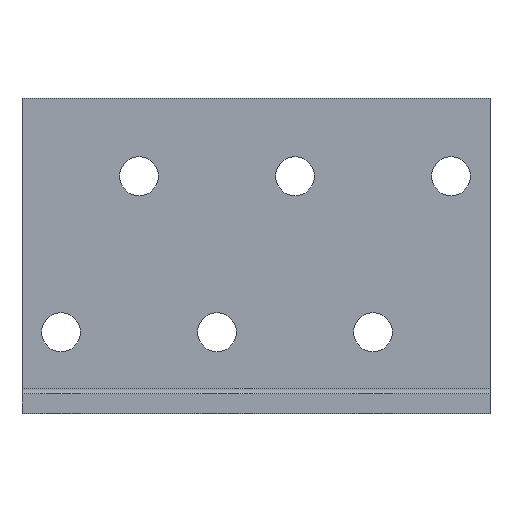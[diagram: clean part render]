
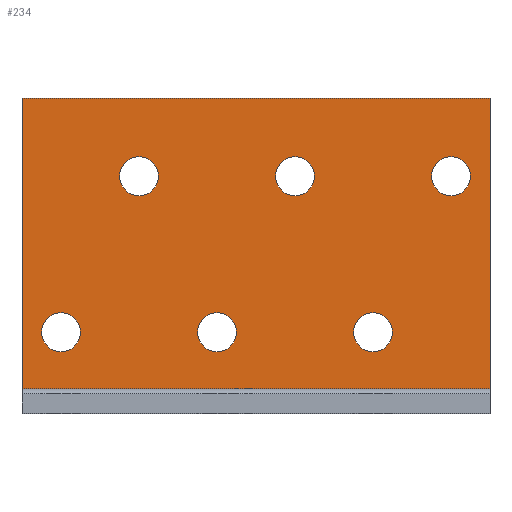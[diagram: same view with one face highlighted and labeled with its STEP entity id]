
A CAD part, top view. The second image highlights one B-rep face of the part: STEP entity #234.
In plain terms, the highlighted planar face has unit normal (0, 0, 1).
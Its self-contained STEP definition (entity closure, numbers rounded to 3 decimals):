
#4 = DIRECTION ( 'NONE',  ( 0., 0., 1. ) ) ;
#11 = CARTESIAN_POINT ( 'NONE',  ( 15., 27.962, -37.962 ) ) ;
#13 = CIRCLE ( 'NONE', #1063, 2.5 ) ;
#14 = EDGE_CURVE ( 'NONE', #635, #1287, #470, .T. ) ;
#28 = CARTESIAN_POINT ( 'NONE',  ( 25., 10.462, -37.962 ) ) ;
#38 = CARTESIAN_POINT ( 'NONE',  ( 15., 25.462, -37.962 ) ) ;
#43 = VERTEX_POINT ( 'NONE', #472 ) ;
#61 = DIRECTION ( 'NONE',  ( 0., -1., 0. ) ) ;
#68 = AXIS2_PLACEMENT_3D ( 'NONE', #251, #410, #61 ) ;
#70 = CARTESIAN_POINT ( 'NONE',  ( 60., 37.962, -37.962 ) ) ;
#92 = CIRCLE ( 'NONE', #887, 2.5 ) ;
#97 = CARTESIAN_POINT ( 'NONE',  ( 15., 30.462, -37.962 ) ) ;
#113 = ORIENTED_EDGE ( 'NONE', *, *, #316, .F. ) ;
#116 = CIRCLE ( 'NONE', #982, 2.5 ) ;
#123 = DIRECTION ( 'NONE',  ( 0., 0., 1. ) ) ;
#148 = CARTESIAN_POINT ( 'NONE',  ( 0., 0.737, -37.962 ) ) ;
#154 = CIRCLE ( 'NONE', #68, 2.5 ) ;
#155 = EDGE_LOOP ( 'NONE', ( #335, #113 ) ) ;
#167 = EDGE_CURVE ( 'NONE', #205, #726, #430, .T. ) ;
#168 = CIRCLE ( 'NONE', #755, 2.5 ) ;
#183 = EDGE_CURVE ( 'NONE', #328, #43, #1323, .T. ) ;
#187 = FACE_OUTER_BOUND ( 'NONE', #1184, .T. ) ;
#200 = CARTESIAN_POINT ( 'NONE',  ( 55., 30.462, -37.962 ) ) ;
#205 = VERTEX_POINT ( 'NONE', #841 ) ;
#209 = AXIS2_PLACEMENT_3D ( 'NONE', #495, #4, #1223 ) ;
#233 = DIRECTION ( 'NONE',  ( 0., -1., 0. ) ) ;
#234 = ADVANCED_FACE ( 'NONE', ( #457, #1266, #868, #1229, #691, #273, #187 ), #890, .F. ) ;
#239 = DIRECTION ( 'NONE',  ( 0., -1., 0. ) ) ;
#244 = VERTEX_POINT ( 'NONE', #506 ) ;
#251 = CARTESIAN_POINT ( 'NONE',  ( 45., 7.962, -37.962 ) ) ;
#273 = FACE_BOUND ( 'NONE', #311, .T. ) ;
#276 = AXIS2_PLACEMENT_3D ( 'NONE', #386, #474, #1258 ) ;
#283 = EDGE_CURVE ( 'NONE', #286, #558, #397, .T. ) ;
#286 = VERTEX_POINT ( 'NONE', #38 ) ;
#290 = DIRECTION ( 'NONE',  ( 0., 0., 1. ) ) ;
#292 = EDGE_CURVE ( 'NONE', #685, #244, #1159, .T. ) ;
#301 = DIRECTION ( 'NONE',  ( 0., 0., 1. ) ) ;
#311 = EDGE_LOOP ( 'NONE', ( #625, #427 ) ) ;
#316 = EDGE_CURVE ( 'NONE', #1238, #336, #116, .T. ) ;
#328 = VERTEX_POINT ( 'NONE', #200 ) ;
#335 = ORIENTED_EDGE ( 'NONE', *, *, #1144, .F. ) ;
#336 = VERTEX_POINT ( 'NONE', #1296 ) ;
#348 = EDGE_LOOP ( 'NONE', ( #1163, #811 ) ) ;
#350 = AXIS2_PLACEMENT_3D ( 'NONE', #730, #687, #773 ) ;
#358 = VECTOR ( 'NONE', #233, 1000. ) ;
#362 = EDGE_CURVE ( 'NONE', #653, #405, #1199, .T. ) ;
#365 = DIRECTION ( 'NONE',  ( -1., 0., 0. ) ) ;
#369 = DIRECTION ( 'NONE',  ( 0., 1., 0. ) ) ;
#377 = AXIS2_PLACEMENT_3D ( 'NONE', #882, #290, #1038 ) ;
#386 = CARTESIAN_POINT ( 'NONE',  ( 25., 7.962, -37.962 ) ) ;
#397 = CIRCLE ( 'NONE', #438, 2.5 ) ;
#398 = EDGE_CURVE ( 'NONE', #679, #635, #884, .T. ) ;
#405 = VERTEX_POINT ( 'NONE', #28 ) ;
#408 = VERTEX_POINT ( 'NONE', #631 ) ;
#410 = DIRECTION ( 'NONE',  ( 0., 0., 1. ) ) ;
#427 = ORIENTED_EDGE ( 'NONE', *, *, #167, .F. ) ;
#430 = CIRCLE ( 'NONE', #456, 2.5 ) ;
#432 = CIRCLE ( 'NONE', #209, 2.5 ) ;
#438 = AXIS2_PLACEMENT_3D ( 'NONE', #996, #942, #1028 ) ;
#450 = VECTOR ( 'NONE', #365, 1000. ) ;
#453 = DIRECTION ( 'NONE',  ( 0., 0., 1. ) ) ;
#455 = DIRECTION ( 'NONE',  ( 0., 1., 0. ) ) ;
#456 = AXIS2_PLACEMENT_3D ( 'NONE', #646, #895, #672 ) ;
#457 = FACE_BOUND ( 'NONE', #348, .T. ) ;
#468 = ORIENTED_EDGE ( 'NONE', *, *, #986, .T. ) ;
#470 = LINE ( 'NONE', #1113, #450 ) ;
#472 = CARTESIAN_POINT ( 'NONE',  ( 55., 25.462, -37.962 ) ) ;
#474 = DIRECTION ( 'NONE',  ( 0., 0., 1. ) ) ;
#495 = CARTESIAN_POINT ( 'NONE',  ( 25., 7.962, -37.962 ) ) ;
#506 = CARTESIAN_POINT ( 'NONE',  ( 35., 30.462, -37.962 ) ) ;
#525 = AXIS2_PLACEMENT_3D ( 'NONE', #1046, #1207, #455 ) ;
#558 = VERTEX_POINT ( 'NONE', #97 ) ;
#561 = AXIS2_PLACEMENT_3D ( 'NONE', #1150, #123, #1048 ) ;
#567 = DIRECTION ( 'NONE',  ( 0., -1., 0. ) ) ;
#572 = VECTOR ( 'NONE', #1151, 1000. ) ;
#574 = CARTESIAN_POINT ( 'NONE',  ( 55., 27.962, -37.962 ) ) ;
#576 = CARTESIAN_POINT ( 'NONE',  ( 0., 37.962, -37.962 ) ) ;
#605 = CARTESIAN_POINT ( 'NONE',  ( 35., 27.962, -37.962 ) ) ;
#611 = LINE ( 'NONE', #148, #572 ) ;
#625 = ORIENTED_EDGE ( 'NONE', *, *, #652, .F. ) ;
#629 = EDGE_CURVE ( 'NONE', #405, #653, #432, .T. ) ;
#631 = CARTESIAN_POINT ( 'NONE',  ( 0., 0.737, -37.962 ) ) ;
#632 = CARTESIAN_POINT ( 'NONE',  ( 25., 5.462, -37.962 ) ) ;
#635 = VERTEX_POINT ( 'NONE', #70 ) ;
#646 = CARTESIAN_POINT ( 'NONE',  ( 5., 7.962, -37.962 ) ) ;
#652 = EDGE_CURVE ( 'NONE', #726, #205, #831, .T. ) ;
#653 = VERTEX_POINT ( 'NONE', #632 ) ;
#666 = LINE ( 'NONE', #822, #358 ) ;
#672 = DIRECTION ( 'NONE',  ( 0., -1., 0. ) ) ;
#677 = DIRECTION ( 'NONE',  ( 0., 0., 1. ) ) ;
#679 = VERTEX_POINT ( 'NONE', #770 ) ;
#683 = ORIENTED_EDGE ( 'NONE', *, *, #1239, .F. ) ;
#685 = VERTEX_POINT ( 'NONE', #909 ) ;
#687 = DIRECTION ( 'NONE',  ( 0., 0., 1. ) ) ;
#691 = FACE_BOUND ( 'NONE', #1255, .T. ) ;
#719 = ORIENTED_EDGE ( 'NONE', *, *, #183, .F. ) ;
#723 = ORIENTED_EDGE ( 'NONE', *, *, #14, .T. ) ;
#726 = VERTEX_POINT ( 'NONE', #1007 ) ;
#728 = DIRECTION ( 'NONE',  ( 0., -1., 0. ) ) ;
#730 = CARTESIAN_POINT ( 'NONE',  ( 35., 27.962, -37.962 ) ) ;
#755 = AXIS2_PLACEMENT_3D ( 'NONE', #574, #301, #940 ) ;
#768 = EDGE_CURVE ( 'NONE', #244, #685, #92, .T. ) ;
#770 = CARTESIAN_POINT ( 'NONE',  ( 60., 0.737, -37.962 ) ) ;
#773 = DIRECTION ( 'NONE',  ( 0., -1., 0. ) ) ;
#811 = ORIENTED_EDGE ( 'NONE', *, *, #889, .F. ) ;
#812 = DIRECTION ( 'NONE',  ( 0., 0., 1. ) ) ;
#822 = CARTESIAN_POINT ( 'NONE',  ( 0., -38.038, -37.962 ) ) ;
#831 = CIRCLE ( 'NONE', #377, 2.5 ) ;
#841 = CARTESIAN_POINT ( 'NONE',  ( 5., 10.462, -37.962 ) ) ;
#868 = FACE_BOUND ( 'NONE', #1198, .T. ) ;
#882 = CARTESIAN_POINT ( 'NONE',  ( 5., 7.962, -37.962 ) ) ;
#884 = LINE ( 'NONE', #1180, #1306 ) ;
#887 = AXIS2_PLACEMENT_3D ( 'NONE', #605, #453, #728 ) ;
#889 = EDGE_CURVE ( 'NONE', #558, #286, #13, .T. ) ;
#890 = PLANE ( 'NONE',  #525 ) ;
#895 = DIRECTION ( 'NONE',  ( 0., 0., 1. ) ) ;
#909 = CARTESIAN_POINT ( 'NONE',  ( 35., 25.462, -37.962 ) ) ;
#940 = DIRECTION ( 'NONE',  ( 0., -1., 0. ) ) ;
#942 = DIRECTION ( 'NONE',  ( 0., 0., 1. ) ) ;
#982 = AXIS2_PLACEMENT_3D ( 'NONE', #1018, #677, #239 ) ;
#986 = EDGE_CURVE ( 'NONE', #408, #679, #611, .T. ) ;
#996 = CARTESIAN_POINT ( 'NONE',  ( 15., 27.962, -37.962 ) ) ;
#1007 = CARTESIAN_POINT ( 'NONE',  ( 5., 5.462, -37.962 ) ) ;
#1018 = CARTESIAN_POINT ( 'NONE',  ( 45., 7.962, -37.962 ) ) ;
#1020 = ORIENTED_EDGE ( 'NONE', *, *, #1114, .T. ) ;
#1021 = ORIENTED_EDGE ( 'NONE', *, *, #362, .F. ) ;
#1028 = DIRECTION ( 'NONE',  ( 0., -1., 0. ) ) ;
#1038 = DIRECTION ( 'NONE',  ( 0., -1., 0. ) ) ;
#1046 = CARTESIAN_POINT ( 'NONE',  ( 0., -38.038, -37.962 ) ) ;
#1048 = DIRECTION ( 'NONE',  ( 0., -1., 0. ) ) ;
#1063 = AXIS2_PLACEMENT_3D ( 'NONE', #11, #812, #567 ) ;
#1112 = ORIENTED_EDGE ( 'NONE', *, *, #629, .F. ) ;
#1113 = CARTESIAN_POINT ( 'NONE',  ( 0., 37.962, -37.962 ) ) ;
#1114 = EDGE_CURVE ( 'NONE', #1287, #408, #666, .T. ) ;
#1134 = ORIENTED_EDGE ( 'NONE', *, *, #398, .T. ) ;
#1144 = EDGE_CURVE ( 'NONE', #336, #1238, #154, .T. ) ;
#1150 = CARTESIAN_POINT ( 'NONE',  ( 55., 27.962, -37.962 ) ) ;
#1151 = DIRECTION ( 'NONE',  ( 1., 0., 0. ) ) ;
#1157 = EDGE_LOOP ( 'NONE', ( #683, #719 ) ) ;
#1159 = CIRCLE ( 'NONE', #350, 2.5 ) ;
#1163 = ORIENTED_EDGE ( 'NONE', *, *, #283, .F. ) ;
#1180 = CARTESIAN_POINT ( 'NONE',  ( 60., -38.038, -37.962 ) ) ;
#1184 = EDGE_LOOP ( 'NONE', ( #1020, #468, #1134, #723 ) ) ;
#1198 = EDGE_LOOP ( 'NONE', ( #1216, #1295 ) ) ;
#1199 = CIRCLE ( 'NONE', #276, 2.5 ) ;
#1207 = DIRECTION ( 'NONE',  ( 0., 0., -1. ) ) ;
#1216 = ORIENTED_EDGE ( 'NONE', *, *, #292, .F. ) ;
#1223 = DIRECTION ( 'NONE',  ( 0., -1., 0. ) ) ;
#1229 = FACE_BOUND ( 'NONE', #1157, .T. ) ;
#1234 = CARTESIAN_POINT ( 'NONE',  ( 45., 10.462, -37.962 ) ) ;
#1238 = VERTEX_POINT ( 'NONE', #1234 ) ;
#1239 = EDGE_CURVE ( 'NONE', #43, #328, #168, .T. ) ;
#1255 = EDGE_LOOP ( 'NONE', ( #1021, #1112 ) ) ;
#1258 = DIRECTION ( 'NONE',  ( 0., -1., 0. ) ) ;
#1266 = FACE_BOUND ( 'NONE', #155, .T. ) ;
#1287 = VERTEX_POINT ( 'NONE', #576 ) ;
#1295 = ORIENTED_EDGE ( 'NONE', *, *, #768, .F. ) ;
#1296 = CARTESIAN_POINT ( 'NONE',  ( 45., 5.462, -37.962 ) ) ;
#1306 = VECTOR ( 'NONE', #369, 1000. ) ;
#1323 = CIRCLE ( 'NONE', #561, 2.5 ) ;
